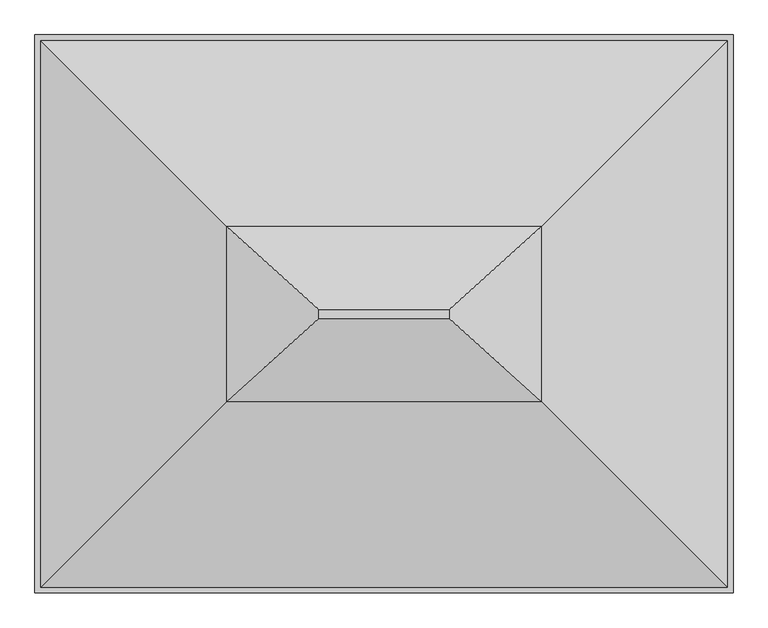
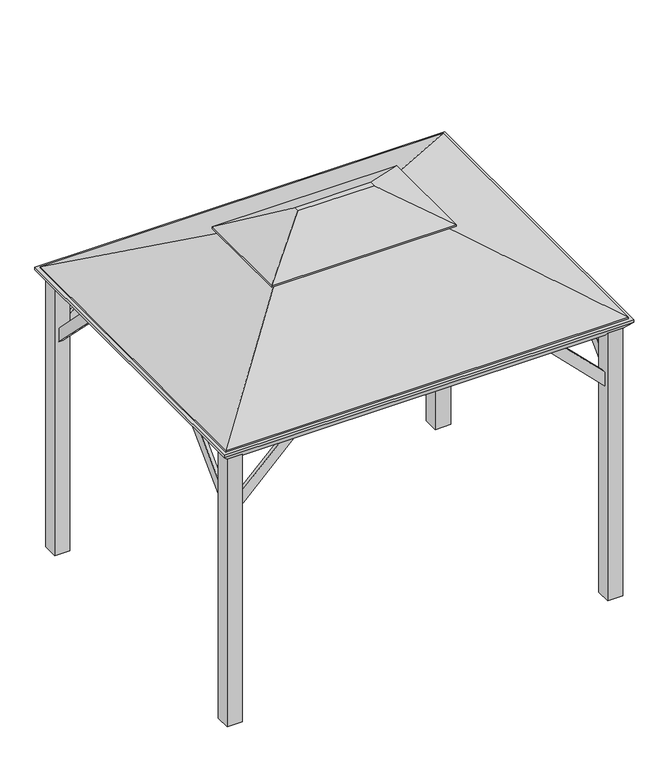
"""IFC4 building model written with IfcOpenShell, lengths in millimetres: proxy geometry."""

from ifc_helpers import new_model, si_unit, frame, origin, place, context, project, spatial, polyline, outline, extrude, faceted_brep, source, transform, mapped, element, save


def generic_models_df632028(model_context):
    return source(origin(), model_context, "Body", "SolidModel", [
        extrude(outline(polyline([(1670.2369265, -1358.9), (2082.8, -946.3369265), (2082.8, -1054.1), (1778.0, -1358.9), (1670.2369265, -1358.9)])), frame((0.0, -1136.65, 0.0), z_axis=(0.0, 1.0, 0.0), x_axis=(0.0, 0.0, 1.0)), (0.0, 0.0, 1.0), 25.4),
        extrude(outline(polyline([(1670.2369265, 1358.9), (1778.0, 1358.9), (2082.8, 1054.1), (2082.8, 946.3369265), (1670.2369265, 1358.9)])), frame((0.0, -1136.65, 0.0), z_axis=(0.0, 1.0, 0.0), x_axis=(0.0, 0.0, 1.0)), (0.0, 0.0, 1.0), 25.4),
        extrude(outline(polyline([(1670.2369265, -1358.9), (2082.8, -946.3369265), (2082.8, -1054.1), (1778.0, -1358.9), (1670.2369265, -1358.9)])), frame((0.0, 1111.25, 0.0), z_axis=(0.0, 1.0, 0.0), x_axis=(0.0, 0.0, 1.0)), (0.0, 0.0, 1.0), 25.4),
        extrude(outline(polyline([(1670.2369265, 1358.9), (1778.0, 1358.9), (2082.8, 1054.1), (2082.8, 946.3369265), (1670.2369265, 1358.9)])), frame((0.0, 1111.25, 0.0), z_axis=(0.0, 1.0, 0.0), x_axis=(0.0, 0.0, 1.0)), (0.0, 0.0, 1.0), 25.4),
        extrude(outline(polyline([(1054.1, 1670.2369265), (641.5369265, 2082.8), (749.3, 2082.8), (1054.1, 1778.0), (1054.1, 1670.2369265)])), frame((1416.05, 0.0, 0.0), z_axis=(1.0, 0.0, 0.0), x_axis=(0.0, 1.0, 0.0)), (0.0, 0.0, 1.0), 25.4),
        extrude(outline(polyline([(-1054.1, 1670.2369265), (-1054.1, 1778.0), (-749.3, 2082.8), (-641.5369265, 2082.8), (-1054.1, 1670.2369265)])), frame((1416.05, 0.0, 0.0), z_axis=(1.0, 0.0, 0.0), x_axis=(0.0, 1.0, 0.0)), (0.0, 0.0, 1.0), 25.4),
        extrude(outline(polyline([(1054.1, 1670.2369265), (641.5369265, 2082.8), (749.3, 2082.8), (1054.1, 1778.0), (1054.1, 1670.2369265)])), frame((-1441.45, 0.0, 0.0), z_axis=(1.0, 0.0, 0.0), x_axis=(0.0, 1.0, 0.0)), (0.0, 0.0, 1.0), 25.4),
        extrude(outline(polyline([(-1054.1, 1670.2369265), (-1054.1, 1778.0), (-749.3, 2082.8), (-641.5369265, 2082.8), (-1054.1, 1670.2369265)])), frame((-1441.45, 0.0, 0.0), z_axis=(1.0, 0.0, 0.0), x_axis=(0.0, 1.0, 0.0)), (0.0, 0.0, 1.0), 25.4),
        faceted_brep([(1524.0, -1219.2, 2184.4), (1524.0, 1219.2, 2184.4), (-1524.0, 1219.2, 2184.4), (-1524.0, -1219.2, 2184.4), (1358.9, 1054.1, 2184.4), (1416.05, 1054.1, 2184.4), (1416.05, -1054.1, 2184.4), (1358.9, -1054.1, 2184.4), (1358.9, -1111.25, 2184.4), (-1358.9, -1111.25, 2184.4), (-1358.9, -1054.1, 2184.4), (-1416.05, -1054.1, 2184.4), (-1416.05, 1054.1, 2184.4), (-1358.9, 1054.1, 2184.4), (-1358.9, 1111.25, 2184.4), (1358.9, 1111.25, 2184.4), (1358.9, 1054.1, 0.0), (1358.9, 1168.4, 0.0), (1473.2, 1168.4, 0.0), (1473.2, 1054.1, 0.0), (1473.2, 1054.1, 2105.3136364), (1454.15, 1054.1, 2082.8), (1416.05, 1054.1, 2082.8), (1473.2, 1168.4, 2105.3136364), (1358.9, 1168.4, 2105.3136364), (1358.9, 1111.25, 2082.8), (1358.9, 1149.35, 2082.8), (1454.15, -1054.1, 2082.8), (1416.05, -1054.1, 2082.8), (-1358.9, 1111.25, 2082.8), (-1358.9, 1149.35, 2082.8), (1358.9, -1111.25, 2082.8), (1358.9, -1149.35, 2082.8), (-1358.9, -1149.35, 2082.8), (-1358.9, -1111.25, 2082.8), (-1416.05, -1054.1, 2082.8), (-1454.15, -1054.1, 2082.8), (-1454.15, 1054.1, 2082.8), (-1416.05, 1054.1, 2082.8), (1524.0, 1219.2, 2165.35), (1524.0, -1219.2, 2165.35), (-1524.0, -1219.2, 2165.35), (-1524.0, 1219.2, 2165.35), (1473.2, -1054.1, 0.0), (1473.2, -1168.4, 0.0), (1358.9, -1168.4, 0.0), (1358.9, -1054.1, 0.0), (1473.2, -1054.1, 2105.3136364), (1358.9, -1168.4, 2105.3136364), (1473.2, -1168.4, 2105.3136364), (-1358.9, -1054.1, 0.0), (-1358.9, -1168.4, 0.0), (-1473.2, -1168.4, 0.0), (-1473.2, -1054.1, 0.0), (-1473.2, -1054.1, 2105.3136364), (-1473.2, -1168.4, 2105.3136364), (-1358.9, -1168.4, 2105.3136364), (-1473.2, 1054.1, 0.0), (-1473.2, 1168.4, 0.0), (-1358.9, 1168.4, 0.0), (-1358.9, 1054.1, 0.0), (-1473.2, 1054.1, 2105.3136364), (-1358.9, 1168.4, 2105.3136364), (-1473.2, 1168.4, 2105.3136364)], [[[0, 1, 2, 3], [4, 5, 6, 7, 8, 9, 10, 11, 12, 13, 14, 15]], [[16, 17, 18, 19]], [[16, 19, 20, 21, 22, 5, 4]], [[19, 18, 23, 20]], [[18, 17, 24, 23]], [[17, 16, 4, 15, 25, 26, 24]], [[22, 21, 27, 28]], [[26, 25, 29, 30]], [[31, 32, 33, 34]], [[35, 36, 37, 38]], [[25, 15, 14, 29]], [[39, 1, 0, 40]], [[40, 0, 3, 41]], [[41, 3, 2, 42]], [[1, 39, 42, 2]], [[43, 44, 45, 46]], [[43, 46, 7, 6, 28, 27, 47]], [[46, 45, 48, 32, 31, 8, 7]], [[45, 44, 49, 48]], [[44, 43, 47, 49]], [[50, 51, 52, 53]], [[50, 53, 54, 36, 35, 11, 10]], [[53, 52, 55, 54]], [[52, 51, 56, 55]], [[51, 50, 10, 9, 34, 33, 56]], [[57, 58, 59, 60]], [[57, 60, 13, 12, 38, 37, 61]], [[60, 59, 62, 30, 29, 14, 13]], [[59, 58, 63, 62]], [[58, 57, 61, 63]], [[5, 22, 28, 6]], [[8, 31, 34, 9]], [[11, 35, 38, 12]], [[39, 40, 49, 47, 27, 21, 20, 23]], [[40, 41, 55, 56, 33, 32, 48, 49]], [[41, 42, 63, 61, 37, 36, 54, 55]], [[42, 39, 23, 24, 26, 30, 62, 63]]]),
        faceted_brep([(284.4741406, 20.3258594, 2946.4), (-284.4741406, 20.3258594, 2946.4), (-284.4741406, -20.3258594, 2946.4), (284.4741406, -20.3258594, 2946.4), (-686.8101406, 382.0101406, 2717.8), (-686.8101406, -382.0101406, 2717.8), (686.8101406, -382.0101406, 2717.8), (686.8101406, 382.0101406, 2717.8), (686.8101406, 382.0101406, 2705.1), (686.8101406, -382.0101406, 2705.1), (-686.8101406, -382.0101406, 2705.1), (-686.8101406, 382.0101406, 2705.1), (284.4741406, 20.3258594, 2933.7), (284.4741406, -20.3258594, 2933.7), (-284.4741406, -20.3258594, 2933.7), (-284.4741406, 20.3258594, 2933.7)], [[[0, 1, 2, 3]], [[2, 1, 4, 5]], [[0, 3, 6, 7]], [[1, 0, 7, 4]], [[3, 2, 5, 6]], [[8, 7, 6, 9]], [[9, 6, 5, 10]], [[10, 5, 4, 11]], [[7, 8, 11, 4]], [[12, 13, 14, 15]], [[15, 14, 10, 11]], [[13, 12, 8, 9]], [[12, 15, 11, 8]], [[14, 13, 9, 10]]]),
        faceted_brep([(-1498.5941406, 1193.7941406, 2197.1), (-559.8101406, 255.0101406, 2730.5), (559.8101406, 255.0101406, 2730.5), (1498.5941406, 1193.7941406, 2197.1), (-1498.5941406, -1193.7941406, 2197.1), (-559.8101406, -255.0101406, 2730.5), (1498.5941406, -1193.7941406, 2197.1), (559.8101406, -255.0101406, 2730.5), (1498.5941406, 1193.7941406, 2184.4), (1498.5941406, -1193.7941406, 2184.4), (-1498.5941406, -1193.7941406, 2184.4), (-1498.5941406, 1193.7941406, 2184.4), (559.8101406, 255.0101406, 2717.8), (-559.8101406, 255.0101406, 2717.8), (-559.8101406, -255.0101406, 2717.8), (559.8101406, -255.0101406, 2717.8)], [[[0, 1, 2, 3]], [[1, 0, 4, 5]], [[5, 4, 6, 7]], [[3, 2, 7, 6]], [[8, 3, 6, 9]], [[9, 6, 4, 10]], [[10, 4, 0, 11]], [[3, 8, 11, 0]], [[8, 12, 13, 11]], [[11, 13, 14, 10]], [[10, 14, 15, 9]], [[12, 8, 9, 15]], [[7, 2, 12, 15]], [[5, 7, 15, 14]], [[1, 5, 14, 13]], [[2, 1, 13, 12]]]),
    ])


if __name__ == "__main__":
    model = new_model("IFC4")
    model_context = context("Model", 3, world=origin())
    ifc_project = project(units=[si_unit("LENGTHUNIT", "METRE", prefix="MILLI")], contexts=[model_context])
    site = spatial("IfcSite", under=ifc_project)
    building = spatial("IfcBuilding", under=site)
    placement = place(None, origin())
    generic_models_shape = generic_models_df632028(model_context)
    element("IfcBuildingElementProxy", 1, Name="Gazebo : 10'-0\" x 8'-0\" (Braces)", ObjectType="Gazebo : 10'-0\" x 8'-0\" (Braces)", at=placement, inside=building, context=model_context, shape_type="MappedRepresentation", body=[
        mapped(generic_models_shape, transform((0.0, 0.0, 0.0), x_axis=(1.0, 0.0, 0.0), y_axis=(0.0, 1.0, 0.0), z_axis=(0.0, 0.0, 1.0))),
    ])
    save(model, "model.ifc")
